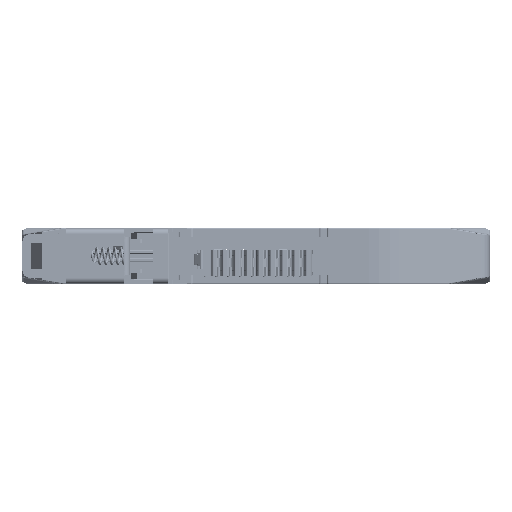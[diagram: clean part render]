
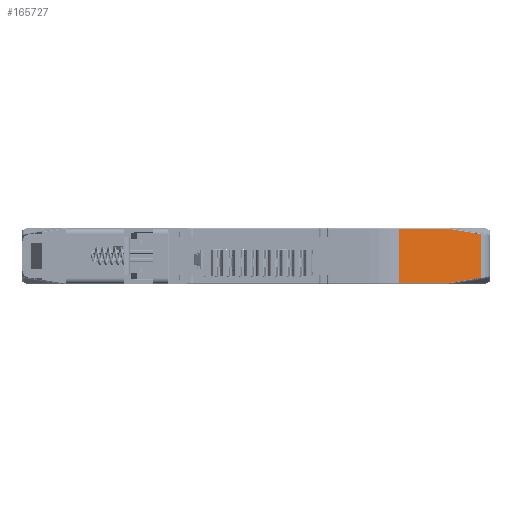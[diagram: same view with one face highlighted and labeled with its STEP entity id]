
A CAD part, front view. The second image highlights one B-rep face of the part: STEP entity #165727.
In plain terms, the highlighted planar face has unit normal (0.326, -0.946, 0).
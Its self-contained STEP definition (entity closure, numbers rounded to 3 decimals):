
#8769=DIRECTION('',(0.,0.,1.));
#8770=VECTOR('',#8769,9.291);
#8771=CARTESIAN_POINT('',(93.227,-2.698,
-1.445));
#8772=LINE('',#8771,#8770);
#8773=CARTESIAN_POINT('',(93.227,-2.698,7.845));
#8901=CARTESIAN_POINT('',(93.227,-2.698,
-1.445));
#8903=DIRECTION('',(0.946,0.326,0.));
#8904=VECTOR('',#8903,10.873);
#8905=CARTESIAN_POINT('',(75.911,-8.66,9.));
#8906=LINE('',#8905,#8904);
#8907=CARTESIAN_POINT('',(86.191,-5.121,9.));
#8908=CARTESIAN_POINT('',(86.203,-5.116,9.));
#8909=CARTESIAN_POINT('',(86.227,-5.108,9.));
#8910=CARTESIAN_POINT('',(86.263,-5.096,8.998));
#8911=CARTESIAN_POINT('',(86.298,-5.084,8.996));
#8912=CARTESIAN_POINT('',(86.334,-5.071,8.992));
#8913=CARTESIAN_POINT('',(86.369,-5.059,8.988));
#8914=CARTESIAN_POINT('',(86.393,-5.051,8.984));
#8915=CARTESIAN_POINT('',(86.405,-5.047,8.982));
#8917=DIRECTION('',(0.934,0.322,-0.156));
#8918=VECTOR('',#8917,5.994);
#8919=CARTESIAN_POINT('',(86.405,-5.047,8.982));
#8920=LINE('',#8919,#8918);
#8921=DIRECTION('',(0.,0.,1.));
#8922=VECTOR('',#8921,0.011);
#8923=CARTESIAN_POINT('',(92.003,-3.119,8.038));
#8924=LINE('',#8923,#8922);
#8925=DIRECTION('',(-0.934,-0.322,0.156));
#8926=VECTOR('',#8925,0.506);
#8927=CARTESIAN_POINT('',(92.475,-2.957,7.96));
#8928=LINE('',#8927,#8926);
#8929=DIRECTION('',(0.,0.,1.));
#8930=VECTOR('',#8929,0.011);
#8931=CARTESIAN_POINT('',(92.475,-2.957,7.96));
#8932=LINE('',#8931,#8930);
#8933=DIRECTION('',(0.934,0.322,-0.156));
#8934=VECTOR('',#8933,0.804);
#8935=CARTESIAN_POINT('',(92.475,-2.957,7.971));
#8936=LINE('',#8935,#8934);
#8937=DIRECTION('',(-0.934,-0.322,-0.156));
#8938=VECTOR('',#8937,0.804);
#8939=CARTESIAN_POINT('',(93.227,-2.698,
-1.445));
#8940=LINE('',#8939,#8938);
#8941=DIRECTION('',(0.,0.,-1.));
#8942=VECTOR('',#8941,0.011);
#8943=CARTESIAN_POINT('',(92.475,-2.957,
-1.56));
#8944=LINE('',#8943,#8942);
#8945=DIRECTION('',(-0.934,-0.322,-0.156));
#8946=VECTOR('',#8945,0.506);
#8947=CARTESIAN_POINT('',(92.475,-2.957,
-1.56));
#8948=LINE('',#8947,#8946);
#8949=DIRECTION('',(0.,0.,-1.));
#8950=VECTOR('',#8949,0.011);
#8951=CARTESIAN_POINT('',(92.003,-3.119,
-1.638));
#8952=LINE('',#8951,#8950);
#8953=DIRECTION('',(-0.934,-0.322,-0.156));
#8954=VECTOR('',#8953,5.994);
#8955=CARTESIAN_POINT('',(92.003,-3.119,
-1.649));
#8956=LINE('',#8955,#8954);
#8957=CARTESIAN_POINT('',(86.405,-5.047,
-2.582));
#8958=CARTESIAN_POINT('',(86.393,-5.051,
-2.584));
#8959=CARTESIAN_POINT('',(86.369,-5.059,
-2.588));
#8960=CARTESIAN_POINT('',(86.334,-5.071,
-2.592));
#8961=CARTESIAN_POINT('',(86.298,-5.084,
-2.596));
#8962=CARTESIAN_POINT('',(86.263,-5.096,
-2.598));
#8963=CARTESIAN_POINT('',(86.227,-5.108,
-2.6));
#8964=CARTESIAN_POINT('',(86.203,-5.116,
-2.6));
#8965=CARTESIAN_POINT('',(86.191,-5.121,-2.6));
#8967=DIRECTION('',(-0.946,-0.326,0.));
#8968=VECTOR('',#8967,10.873);
#8969=CARTESIAN_POINT('',(86.191,-5.121,-2.6));
#8970=LINE('',#8969,#8968);
#8980=DIRECTION('',(0.,0.,-1.));
#8981=VECTOR('',#8980,11.6);
#8982=CARTESIAN_POINT('',(75.911,-8.66,9.));
#8983=LINE('',#8982,#8981);
#151641=CARTESIAN_POINT('',(86.191,-5.121,-2.6));
#151642=CARTESIAN_POINT('',(75.911,-8.66,-2.6));
#151643=VERTEX_POINT('',#151641);
#151644=VERTEX_POINT('',#151642);
#151646=VERTEX_POINT('',#8957);
#151650=VERTEX_POINT('',#8901);
#153914=CARTESIAN_POINT('',(92.475,-2.957,
-1.56));
#153915=CARTESIAN_POINT('',(92.003,-3.119,
-1.638));
#153916=VERTEX_POINT('',#153914);
#153917=VERTEX_POINT('',#153915);
#153918=CARTESIAN_POINT('',(92.003,-3.119,
-1.649));
#153919=VERTEX_POINT('',#153918);
#153920=CARTESIAN_POINT('',(92.475,-2.957,
-1.571));
#153921=VERTEX_POINT('',#153920);
#160239=VERTEX_POINT('',#8773);
#160242=VERTEX_POINT('',#8907);
#160243=VERTEX_POINT('',#8915);
#160246=CARTESIAN_POINT('',(75.911,-8.66,9.));
#160247=VERTEX_POINT('',#160246);
#161360=CARTESIAN_POINT('',(92.475,-2.957,
7.96));
#161361=CARTESIAN_POINT('',(92.003,-3.119,
8.038));
#161362=VERTEX_POINT('',#161360);
#161363=VERTEX_POINT('',#161361);
#161364=CARTESIAN_POINT('',(92.003,-3.119,
8.049));
#161365=VERTEX_POINT('',#161364);
#161366=CARTESIAN_POINT('',(92.475,-2.957,
7.971));
#161367=VERTEX_POINT('',#161366);
#165689=CARTESIAN_POINT('',(75.911,-8.66,8.1));
#165690=DIRECTION('',(0.326,-0.946,0.));
#165691=DIRECTION('',(0.946,0.326,0.));
#165692=AXIS2_PLACEMENT_3D('',#165689,#165690,#165691);
#165693=PLANE('',#165692);
#165695=ORIENTED_EDGE('',*,*,#165694,.F.);
#165697=ORIENTED_EDGE('',*,*,#165696,.T.);
#165699=ORIENTED_EDGE('',*,*,#165698,.T.);
#165701=ORIENTED_EDGE('',*,*,#165700,.T.);
#165703=ORIENTED_EDGE('',*,*,#165702,.F.);
#165705=ORIENTED_EDGE('',*,*,#165704,.F.);
#165707=ORIENTED_EDGE('',*,*,#165706,.T.);
#165709=ORIENTED_EDGE('',*,*,#165708,.T.);
#165710=ORIENTED_EDGE('',*,*,#165675,.F.);
#165712=ORIENTED_EDGE('',*,*,#165711,.T.);
#165714=ORIENTED_EDGE('',*,*,#165713,.F.);
#165716=ORIENTED_EDGE('',*,*,#165715,.T.);
#165718=ORIENTED_EDGE('',*,*,#165717,.T.);
#165720=ORIENTED_EDGE('',*,*,#165719,.T.);
#165722=ORIENTED_EDGE('',*,*,#165721,.T.);
#165724=ORIENTED_EDGE('',*,*,#165723,.T.);
#165725=EDGE_LOOP('',(#165695,#165697,#165699,#165701,#165703,#165705,#165707,
#165709,#165710,#165712,#165714,#165716,#165718,#165720,#165722,#165724));
#165726=FACE_OUTER_BOUND('',#165725,.F.);
#165727=ADVANCED_FACE('',(#165726),#165693,.T.);
#8916=B_SPLINE_CURVE_WITH_KNOTS('',3,(#8907,#8908,#8909,#8910,#8911,#8912,#8913,
#8914,#8915),.UNSPECIFIED.,.F.,.F.,(4,1,1,1,1,1,4),(0.,0.167,
0.333,0.5,0.667,0.833,1.),
.UNSPECIFIED.);
#8966=B_SPLINE_CURVE_WITH_KNOTS('',3,(#8957,#8958,#8959,#8960,#8961,#8962,#8963,
#8964,#8965),.UNSPECIFIED.,.F.,.F.,(4,1,1,1,1,1,4),(0.,0.167,
0.333,0.5,0.667,0.833,1.),
.UNSPECIFIED.);
#165675=EDGE_CURVE('',#151650,#160239,#8772,.T.);
#165694=EDGE_CURVE('',#160247,#151644,#8983,.T.);
#165696=EDGE_CURVE('',#160247,#160242,#8906,.T.);
#165698=EDGE_CURVE('',#160242,#160243,#8916,.T.);
#165700=EDGE_CURVE('',#160243,#161365,#8920,.T.);
#165702=EDGE_CURVE('',#161363,#161365,#8924,.T.);
#165704=EDGE_CURVE('',#161362,#161363,#8928,.T.);
#165706=EDGE_CURVE('',#161362,#161367,#8932,.T.);
#165708=EDGE_CURVE('',#161367,#160239,#8936,.T.);
#165711=EDGE_CURVE('',#151650,#153921,#8940,.T.);
#165713=EDGE_CURVE('',#153916,#153921,#8944,.T.);
#165715=EDGE_CURVE('',#153916,#153917,#8948,.T.);
#165717=EDGE_CURVE('',#153917,#153919,#8952,.T.);
#165719=EDGE_CURVE('',#153919,#151646,#8956,.T.);
#165721=EDGE_CURVE('',#151646,#151643,#8966,.T.);
#165723=EDGE_CURVE('',#151643,#151644,#8970,.T.);
